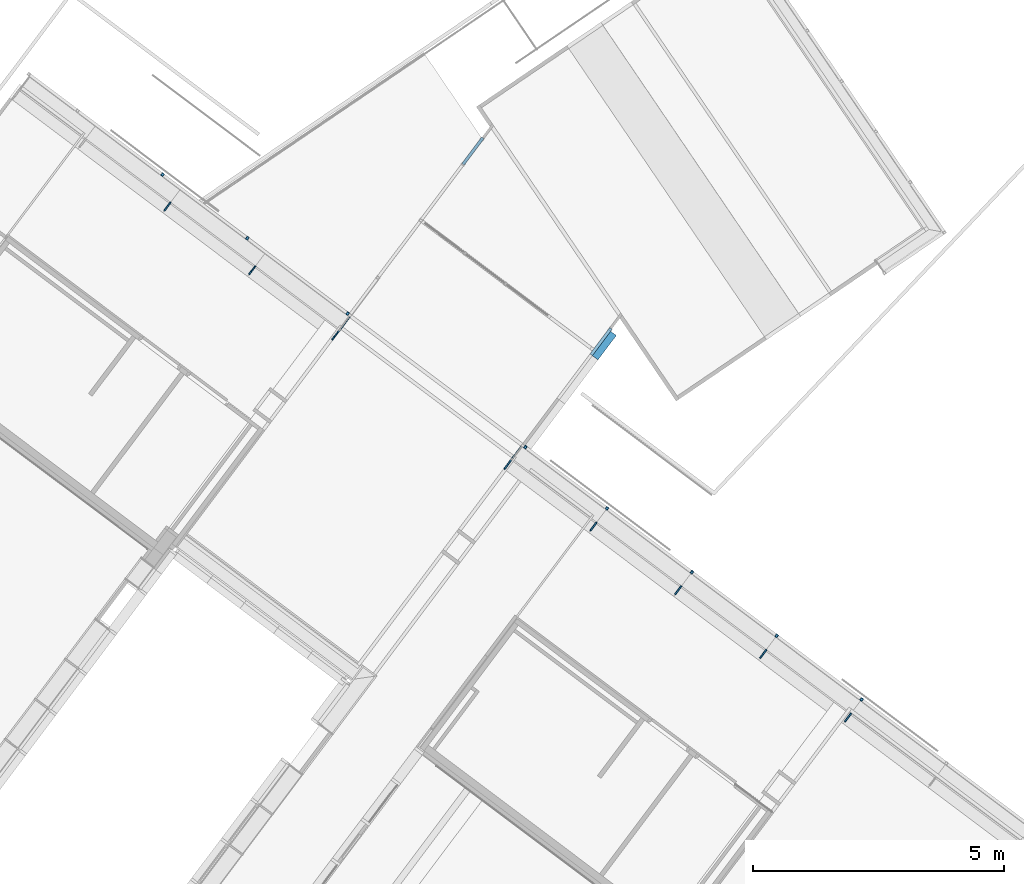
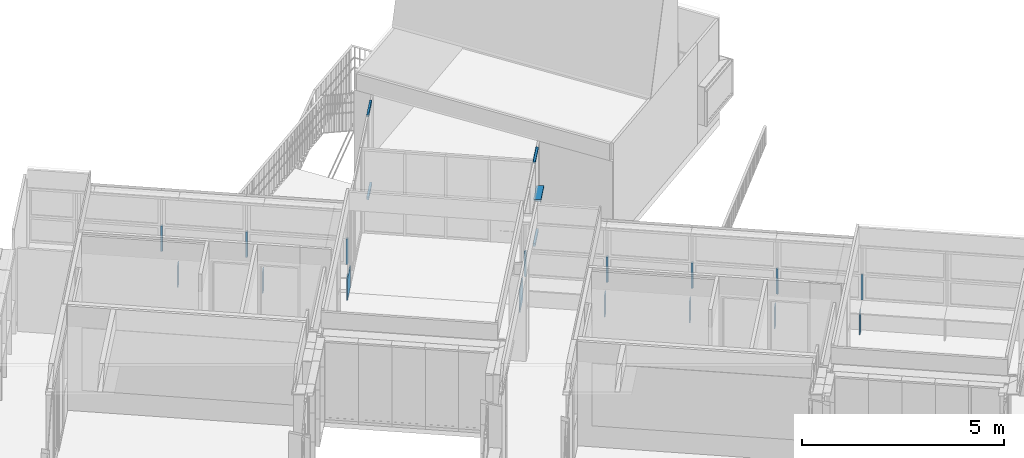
# One storey, part 102 of 243: 21 members, 6 elements without a shape of their own.
"""IFC2X3 building model written with IfcOpenShell, lengths in metres."""

import ifcopenshell
import ifcopenshell.guid

model = None  # the IFC model being written
_history = None  # IfcOwnerHistory: only IFC2X3 demands one
_inside = {}  # id of a spatial element -> (the spatial element, [elements in it])
_under = {}  # id of a project, library or spatial element -> (it, [spatial elements below it])
_declared = {}  # id of a project -> (the project, [libraries it declares])
_typed = {}  # id of a type object -> (the type object, [elements of that type])
_made_of = {}  # id of a material, layer set ... -> (it, [elements and type objects made of it])


def new_model(schema):
    """Start an empty IFC model of exactly this schema.

    Asked for "IFC4X3", IfcOpenShell would pick the latest addendum, in which some entities
    have other attributes; the version numbers below select the first issue.
    IFC2X3 requires an IfcOwnerHistory on every rooted entity: one is made here for all.
    """
    global model, _history
    if schema == "IFC4X3":
        model = ifcopenshell.file(schema_version=(4, 3, 0, 0))
    else:
        model = ifcopenshell.file(schema=schema)
    _inside.clear()
    _under.clear()
    _declared.clear()
    _typed.clear()
    _made_of.clear()
    _history = None
    if model.schema == "IFC2X3":
        org = make("IfcOrganization", Name="unknown")
        user = make(
            "IfcPersonAndOrganization",
            ThePerson=make("IfcPerson", FamilyName="unknown"),
            TheOrganization=org,
        )
        app = make(
            "IfcApplication",
            ApplicationDeveloper=org,
            Version="unknown",
            ApplicationFullName="unknown",
            ApplicationIdentifier="unknown",
        )
        _history = make(
            "IfcOwnerHistory",
            OwningUser=user,
            OwningApplication=app,
            ChangeAction="ADDED",
            CreationDate=0,
        )
    return model


def make(cls, **values):
    """One entity of the class cls with the attributes given. An attribute that is None is left unset."""
    return model.create_entity(
        cls, **{name: value for name, value in values.items() if value is not None}
    )


def entity(cls, *values):
    """Any entity or typed value of the class cls, its attributes in the order of the schema. None: left unset."""
    e = model.create_entity(cls)
    for i, value in enumerate(values):
        if value is not None:
            e[i] = value
    return e


def rooted(cls, **values):
    """An entity with a GlobalId (a new one), such as an element, a storey or a relation."""
    return make(cls, GlobalId=ifcopenshell.guid.new(), OwnerHistory=_history, **values)


def si_unit(unit_type, name, prefix=None):
    """IfcSIUnit, for example si_unit("LENGTHUNIT", "METRE", prefix="MILLI")."""
    return make("IfcSIUnit", UnitType=unit_type, Prefix=prefix, Name=name)


def converted_unit(unit_type, name, factor, base, dimensions=None, offset=None):
    """IfcConversionBasedUnit, such as the inch: factor (a typed value) times the base unit."""
    return make(
        "IfcConversionBasedUnit"
        if offset is None
        else "IfcConversionBasedUnitWithOffset",
        ConversionOffset=offset,
        Dimensions=None
        if dimensions is None
        else entity("IfcDimensionalExponents", *dimensions),
        UnitType=unit_type,
        Name=name,
        ConversionFactor=make(
            "IfcMeasureWithUnit", ValueComponent=factor, UnitComponent=base
        ),
    )


def derived_unit(unit_type, elements):
    """IfcDerivedUnit: a product of units, each with its exponent."""
    return make(
        "IfcDerivedUnit",
        Elements=[
            make("IfcDerivedUnitElement", Unit=unit, Exponent=power)
            for unit, power in elements
        ],
        UnitType=unit_type,
    )


def assignment(units):
    """IfcUnitAssignment: the units of a project."""
    return None if units is None else make("IfcUnitAssignment", Units=units)


def point(xyz):
    """IfcCartesianPoint."""
    return None if xyz is None else make("IfcCartesianPoint", Coordinates=xyz)


def direction(xyz):
    """IfcDirection."""
    return None if xyz is None else make("IfcDirection", DirectionRatios=xyz)


def frame(location, z_axis=None, x_axis=None):
    """IfcAxis2Placement3D, a coordinate frame: its origin and axes. An axis left out is left unset."""
    return make(
        "IfcAxis2Placement3D",
        Location=point(location),
        Axis=direction(z_axis),
        RefDirection=direction(x_axis),
    )


def frame_2d(location, x_axis=None):
    """IfcAxis2Placement2D, a coordinate frame in the plane: its origin and x axis."""
    return make(
        "IfcAxis2Placement2D", Location=point(location), RefDirection=direction(x_axis)
    )


def origin():
    """The frame at (0, 0, 0) with its axes left unset."""
    return frame((0.0, 0.0, 0.0))


def origin_2d_with_axis():
    """The frame at (0, 0) in the plane with the x axis (1, 0) written out."""
    return frame_2d((0.0, 0.0), x_axis=(1.0, 0.0))


def place(relative_to, where):
    """IfcLocalPlacement: puts the frame where relative to a parent placement (None: the world)."""
    return make(
        "IfcLocalPlacement", PlacementRelTo=relative_to, RelativePlacement=where
    )


def context(
    kind, dimensions, precision=None, world=None, true_north=None, identifier=None
):
    """IfcGeometricRepresentationContext, for example the 3D "Model" context."""
    return make(
        "IfcGeometricRepresentationContext",
        ContextIdentifier=identifier,
        ContextType=kind,
        CoordinateSpaceDimension=dimensions,
        Precision=precision,
        WorldCoordinateSystem=world,
        TrueNorth=true_north,
    )


def subcontext(parent, identifier, kind, view, scale=None):
    """IfcGeometricRepresentationSubContext, for example "Body" below "Model"."""
    return make(
        "IfcGeometricRepresentationSubContext",
        ContextIdentifier=identifier,
        ContextType=kind,
        ParentContext=parent,
        TargetScale=scale,
        TargetView=view,
    )


def project(units=None, contexts=None):
    """IfcProject with its units and contexts."""
    return rooted(
        "IfcProject",
        Name="project",
        RepresentationContexts=contexts,
        UnitsInContext=assignment(units),
    )


def spatial(cls, under=None, at=None, **own):
    """A site, building, storey or space (cls), placed at a placement, below another one or the project."""
    s = rooted(cls, ObjectPlacement=at, **own)
    if under is not None:
        _under.setdefault(under.id(), (under, []))[1].append(s)
    return s


def polyline(points):
    """IfcPolyline through the points."""
    return make("IfcPolyline", Points=[point(p) for p in points])


def profile(cls, at=None, kind="AREA", **sizes):
    """A parametric profile (cls). Its sizes go by their IFC names, for example OverallWidth=200.0."""
    return make(cls, ProfileType=kind, Position=at, **sizes)


def rectangle(**sizes):
    """IfcRectangleProfileDef."""
    return profile("IfcRectangleProfileDef", **sizes)


def outline(outer, holes=None, kind="AREA"):
    """IfcArbitraryClosedProfileDef: a profile drawn as a closed curve; with holes, ...WithVoids."""
    if holes is None:
        return make("IfcArbitraryClosedProfileDef", ProfileType=kind, OuterCurve=outer)
    return make(
        "IfcArbitraryProfileDefWithVoids",
        ProfileType=kind,
        OuterCurve=outer,
        InnerCurves=holes,
    )


def extrude(swept, where, along, depth):
    """IfcExtrudedAreaSolid: the profile swept, set in the frame where, extruded along a direction by depth."""
    return make(
        "IfcExtrudedAreaSolid",
        SweptArea=swept,
        Position=where,
        ExtrudedDirection=direction(along),
        Depth=depth,
    )


def shape(context_of_items, identifier, shape_type, items):
    """IfcShapeRepresentation: the items that make up one representation, for example the "Body"."""
    return make(
        "IfcShapeRepresentation",
        ContextOfItems=context_of_items,
        RepresentationIdentifier=identifier,
        RepresentationType=shape_type,
        Items=items,
    )


def source(mapping_origin, context_of_items, identifier, shape_type, items):
    """IfcRepresentationMap: a shape defined once, which mapped items show again and again."""
    return make(
        "IfcRepresentationMap",
        MappingOrigin=mapping_origin,
        MappedRepresentation=shape(context_of_items, identifier, shape_type, items),
    )


def transform(
    local_origin,
    x_axis=None,
    y_axis=None,
    z_axis=None,
    scale=None,
    scale2=None,
    scale3=None,
    uniform=True,
):
    """IfcCartesianTransformationOperator3D, or its non-uniform kind. x_axis, y_axis, z_axis: its Axis1, 2, 3."""
    if uniform:
        return make(
            "IfcCartesianTransformationOperator3D",
            Axis1=direction(x_axis),
            Axis2=direction(y_axis),
            LocalOrigin=point(local_origin),
            Scale=scale,
            Axis3=direction(z_axis),
        )
    return make(
        "IfcCartesianTransformationOperator3DnonUniform",
        Axis1=direction(x_axis),
        Axis2=direction(y_axis),
        LocalOrigin=point(local_origin),
        Scale=scale,
        Axis3=direction(z_axis),
        Scale2=scale2,
        Scale3=scale3,
    )


def mapped(mapping_source, mapping_target):
    """IfcMappedItem: shows the shape of a source again, moved by a transform."""
    return make(
        "IfcMappedItem", MappingSource=mapping_source, MappingTarget=mapping_target
    )


def material(Name=None, Category=None):
    """IfcMaterial."""
    return make("IfcMaterial", Name=Name, Category=Category)


def made_of(thing, what):
    """Note that an element or type object is made of a material, layer set ...; save() writes the relation."""
    if what is not None:
        _made_of.setdefault(what.id(), (what, []))[1].append(thing)
    return thing


def type_object(cls, material=None, **own):
    """A type object (cls), such as IfcWallType, which elements share."""
    return made_of(rooted(cls, **own), material)


def type_shapes(of_type, sources):
    """Give a type object the sources (RepresentationMaps) that its elements show as mapped items."""
    of_type.RepresentationMaps = sources


def element(
    cls,
    number,
    at=None,
    inside=None,
    cuts=None,
    type_object=None,
    material=None,
    context=None,
    identifier="Body",
    shape_type=None,
    held_by="IfcProductDefinitionShape",
    body=None,
    shapes=None,
    **own,
):
    """One element of the class cls, such as IfcWall. Its Tag is "e" and its number.

    at: its placement. inside: the storey or other place that contains it. cuts: it is an
    opening in that element (IfcRelVoidsElement). A single representation is given by context,
    identifier, shape_type and body (its items); several are given by shapes. held_by: the class
    of the entity that holds the representations. save() writes the other relations.
    """
    e = rooted(cls, Tag="e%d" % number, ObjectPlacement=at, **own)
    if body is not None:
        shapes = [shape(context, identifier, shape_type, body)]
    if shapes is not None:
        e.Representation = make(held_by, Representations=shapes)
    if inside is not None:
        _inside.setdefault(inside.id(), (inside, []))[1].append(e)
    if cuts is not None:
        rooted(
            "IfcRelVoidsElement", RelatingBuildingElement=cuts, RelatedOpeningElement=e
        )
    if type_object is not None:
        _typed.setdefault(type_object.id(), (type_object, []))[1].append(e)
    return made_of(e, material)


def aggregate(whole, parts):
    """IfcRelAggregates: a whole, such as a stair, and the parts it consists of."""
    return rooted("IfcRelAggregates", RelatingObject=whole, RelatedObjects=parts)


def save(model, path):
    """Write the relations noted so far, then the file.

    IfcRelAggregates (storeys below a building ...), IfcRelContainedInSpatialStructure (elements
    in a storey), IfcRelDefinesByType, IfcRelAssociatesMaterial and IfcRelDeclares: one each for
    every whole, place, type object, material and project.
    """
    for whole, parts in _under.values():
        aggregate(whole, parts)
    for where, things in _inside.values():
        rooted(
            "IfcRelContainedInSpatialStructure",
            RelatedElements=things,
            RelatingStructure=where,
        )
    for kind, things in _typed.values():
        rooted("IfcRelDefinesByType", RelatedObjects=things, RelatingType=kind)
    for what, things in _made_of.values():
        rooted("IfcRelAssociatesMaterial", RelatedObjects=things, RelatingMaterial=what)
    for by, libraries in _declared.values():
        rooted("IfcRelDeclares", RelatingContext=by, RelatedDefinitions=libraries)
    model.write(path)


model = new_model("IFC2X3")

# Units and contexts
model_context = context("Model", 3, precision=1e-05, world=origin(), true_north=direction((6.123031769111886e-17, 1.0)))
body_context = subcontext(model_context, "Body", "Model", "MODEL_VIEW")
ifc_project = project(units=[si_unit("LENGTHUNIT", "METRE"), si_unit("AREAUNIT", "SQUARE_METRE"), si_unit("VOLUMEUNIT", "CUBIC_METRE"), converted_unit("PLANEANGLEUNIT", "DEGREE", entity("IfcRatioMeasure", 0.017453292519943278), si_unit("PLANEANGLEUNIT", "RADIAN"), dimensions=[0, 0, 0, 0, 0, 0, 0]), si_unit("MASSUNIT", "GRAM", prefix="KILO"), derived_unit("MASSDENSITYUNIT", [(si_unit("MASSUNIT", "GRAM", prefix="KILO"), 1), (si_unit("LENGTHUNIT", "METRE"), -3)]), derived_unit("IONCONCENTRATIONUNIT", [(si_unit("MASSUNIT", "GRAM", prefix="KILO"), 1), (si_unit("LENGTHUNIT", "METRE"), -3)]), derived_unit("MOMENTOFINERTIAUNIT", [(si_unit("LENGTHUNIT", "METRE"), 4)]), si_unit("TIMEUNIT", "SECOND"), si_unit("FREQUENCYUNIT", "HERTZ"), si_unit("THERMODYNAMICTEMPERATUREUNIT", "DEGREE_CELSIUS"), derived_unit("THERMALTRANSMITTANCEUNIT", [(si_unit("MASSUNIT", "GRAM", prefix="KILO"), 1), (si_unit("THERMODYNAMICTEMPERATUREUNIT", "KELVIN"), -1), (si_unit("TIMEUNIT", "SECOND"), -3)]), derived_unit("THERMALCONDUCTANCEUNIT", [(si_unit("MASSUNIT", "GRAM", prefix="KILO"), 1), (si_unit("THERMODYNAMICTEMPERATUREUNIT", "KELVIN"), -1), (si_unit("TIMEUNIT", "SECOND"), -3), (si_unit("LENGTHUNIT", "METRE"), 1)]), derived_unit("VOLUMETRICFLOWRATEUNIT", [(si_unit("LENGTHUNIT", "METRE"), 3), (si_unit("TIMEUNIT", "SECOND"), -1)]), derived_unit("MASSFLOWRATEUNIT", [(si_unit("MASSUNIT", "GRAM", prefix="KILO"), 1), (si_unit("TIMEUNIT", "SECOND"), -1)]), derived_unit("ROTATIONALFREQUENCYUNIT", [(si_unit("TIMEUNIT", "SECOND"), -1)]), si_unit("ELECTRICCURRENTUNIT", "AMPERE"), si_unit("ELECTRICVOLTAGEUNIT", "VOLT"), si_unit("POWERUNIT", "WATT"), si_unit("FORCEUNIT", "NEWTON", prefix="KILO"), si_unit("ILLUMINANCEUNIT", "LUX"), si_unit("LUMINOUSFLUXUNIT", "LUMEN"), si_unit("LUMINOUSINTENSITYUNIT", "CANDELA"), derived_unit("USERDEFINED", [(si_unit("MASSUNIT", "GRAM", prefix="KILO"), -1), (si_unit("LENGTHUNIT", "METRE"), -2), (si_unit("TIMEUNIT", "SECOND"), 3), (si_unit("LUMINOUSFLUXUNIT", "LUMEN"), 1)]), derived_unit("USERDEFINED", [(si_unit("MASSUNIT", "GRAM", prefix="KILO"), 1), (si_unit("TIMEUNIT", "SECOND"), -3), (si_unit("LENGTHUNIT", "METRE"), 3), (si_unit("ELECTRICCURRENTUNIT", "AMPERE"), -2)]), derived_unit("SOUNDPOWERUNIT", [(si_unit("MASSUNIT", "GRAM", prefix="KILO"), 1), (si_unit("TIMEUNIT", "SECOND"), -3), (si_unit("LENGTHUNIT", "METRE"), 2)]), derived_unit("SOUNDPRESSUREUNIT", [(si_unit("MASSUNIT", "GRAM", prefix="KILO"), 1), (si_unit("LENGTHUNIT", "METRE"), -1), (si_unit("TIMEUNIT", "SECOND"), -2)]), derived_unit("LINEARVELOCITYUNIT", [(si_unit("LENGTHUNIT", "METRE"), 1), (si_unit("TIMEUNIT", "SECOND"), -1)]), si_unit("PRESSUREUNIT", "PASCAL"), derived_unit("USERDEFINED", [(si_unit("MASSUNIT", "GRAM", prefix="KILO"), 1), (si_unit("LENGTHUNIT", "METRE"), -2), (si_unit("TIMEUNIT", "SECOND"), -2)]), derived_unit("LINEARFORCEUNIT", [(si_unit("MASSUNIT", "GRAM", prefix="KILO"), 1), (si_unit("TIMEUNIT", "SECOND"), -2)]), derived_unit("PLANARFORCEUNIT", [(si_unit("MASSUNIT", "GRAM", prefix="KILO"), 1), (si_unit("LENGTHUNIT", "METRE"), -1), (si_unit("TIMEUNIT", "SECOND"), -2)]), derived_unit("SPECIFICHEATCAPACITYUNIT", [(si_unit("THERMODYNAMICTEMPERATUREUNIT", "KELVIN"), -1), (si_unit("LENGTHUNIT", "METRE"), 2), (si_unit("TIMEUNIT", "SECOND"), -2)]), derived_unit("HEATINGVALUEUNIT", [(si_unit("LENGTHUNIT", "METRE"), 2), (si_unit("TIMEUNIT", "SECOND"), -2)]), derived_unit("VAPORPERMEABILITYUNIT", [(si_unit("LENGTHUNIT", "METRE"), -1), (si_unit("TIMEUNIT", "SECOND"), 1)]), derived_unit("DYNAMICVISCOSITYUNIT", [(si_unit("MASSUNIT", "GRAM", prefix="KILO"), 1), (si_unit("TIMEUNIT", "SECOND"), -1), (si_unit("LENGTHUNIT", "METRE"), -1)]), derived_unit("THERMALEXPANSIONCOEFFICIENTUNIT", [(si_unit("THERMODYNAMICTEMPERATUREUNIT", "KELVIN"), -1)]), derived_unit("MODULUSOFELASTICITYUNIT", [(si_unit("MASSUNIT", "GRAM", prefix="KILO"), 1), (si_unit("LENGTHUNIT", "METRE"), -1), (si_unit("TIMEUNIT", "SECOND"), -2)]), derived_unit("ISOTHERMALMOISTURECAPACITYUNIT", [(si_unit("LENGTHUNIT", "METRE"), 3), (si_unit("MASSUNIT", "GRAM", prefix="KILO"), -1)]), derived_unit("MOISTUREDIFFUSIVITYUNIT", [(si_unit("TIMEUNIT", "SECOND"), -1), (si_unit("LENGTHUNIT", "METRE"), 2)])], contexts=[model_context])

# Site, building, storey
site_placement = place(None, frame((0.0, 0.0, 235.0), z_axis=(0.0, 0.0, 1.0), x_axis=(-0.7996477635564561, 0.6004693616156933, 0.0)))
site = spatial("IfcSite", under=ifc_project, at=site_placement, Name="Default", CompositionType="ELEMENT")
building_placement = place(site_placement, origin())
building = spatial("IfcBuilding", under=site, at=building_placement, CompositionType="ELEMENT")
storey_placement = place(building_placement, origin())
storey = spatial("IfcBuildingStorey", under=building, at=storey_placement, Name="P0- Escola", CompositionType="ELEMENT", Elevation=0.0)

# Curtain wall, members
curtain_wall_type_1 = type_object("IfcCurtainWallType", Name="Muro cortina:MC- EXT- MC6", PredefinedType="NOTDEFINED")
curtain_wall_1_placement = place(storey_placement, origin())
curtain_wall_1 = element("IfcCurtainWall", 1, at=curtain_wall_1_placement, inside=storey, type_object=curtain_wall_type_1, Name="Muro cortina:MC- EXT- MC6", ObjectType="Muro cortina:MC- EXT- MC6")
ifc_material_1 = material(Name="_Alumini- T1- Perfil")
member_type_1 = type_object("IfcMemberType", Name="Montante rectangular:MC- Alu- 50x60 cm- Fa pista- Centre", PredefinedType="MULLION", material=ifc_material_1)
shared_shape_1 = source(origin(), body_context, "Body", "SweptSolid", [
    extrude(rectangle(XDim=0.06000000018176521, YDim=0.05, at=frame_2d((3.469446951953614e-18, 0.0), x_axis=(1.0, 0.0))), frame((-0.025, -0.030000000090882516, -0.77), z_axis=(0.0, 0.0, 1.0), x_axis=(0.0, -1.0, 0.0)), (0.0, 0.0, 1.0), 0.77),
])
type_shapes(member_type_1, [shared_shape_1])
member_1_placement = place(curtain_wall_1_placement, frame((62.05048814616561, -42.34019175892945, 0.685), z_axis=(0.0, 0.0, -1.0), x_axis=(1.0, 0.0, 0.0)))
member_1 = element("IfcMember", 2, at=member_1_placement, type_object=member_type_1, material=ifc_material_1, Name="Montante rectangular:MC- Alu- 50x60 cm- Fa pista- Centre", ObjectType="Montante rectangular:MC- Alu- 50x60 cm- Fa pista- Centre", context=body_context, shape_type="MappedRepresentation", body=[
    mapped(shared_shape_1, transform((0.0, 0.0, 0.0), scale=1.0)),
])
member_type_2 = type_object("IfcMemberType", Name="Montante rectangular:MC- Alu- 50x60 cm- Fa pista- Centre", PredefinedType="MULLION", material=ifc_material_1)
shared_shape_2 = source(origin(), body_context, "Body", "SweptSolid", [
    extrude(rectangle(XDim=0.0600000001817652, YDim=0.05, at=frame_2d((8.673617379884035e-18, 0.0), x_axis=(1.0, 0.0))), frame((0.0, -0.030000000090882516, -0.77), z_axis=(0.0, 0.0, 1.0), x_axis=(0.0, -1.0, 0.0)), (0.0, 0.0, 1.0), 0.77),
])
type_shapes(member_type_2, [shared_shape_2])
member_2_placement = place(curtain_wall_1_placement, frame((59.986143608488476, -42.34019175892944, 0.685), z_axis=(0.0, 0.0, -1.0), x_axis=(1.0, 0.0, 0.0)))
member_2 = element("IfcMember", 3, at=member_2_placement, type_object=member_type_2, material=ifc_material_1, Name="Montante rectangular:MC- Alu- 50x60 cm- Fa pista- Centre", ObjectType="Montante rectangular:MC- Alu- 50x60 cm- Fa pista- Centre", context=body_context, shape_type="MappedRepresentation", body=[
    mapped(shared_shape_2, transform((0.0, 0.0, 0.0), scale=1.0)),
])
member_3_placement = place(curtain_wall_1_placement, frame((57.86914360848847, -42.34019175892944, 0.685), z_axis=(0.0, 0.0, -1.0), x_axis=(1.0, 0.0, 0.0)))
member_3 = element("IfcMember", 4, at=member_3_placement, type_object=member_type_2, material=ifc_material_1, Name="Montante rectangular:MC- Alu- 50x60 cm- Fa pista- Centre", ObjectType="Montante rectangular:MC- Alu- 50x60 cm- Fa pista- Centre", context=body_context, shape_type="MappedRepresentation", body=[
    mapped(shared_shape_2, transform((0.0, 0.0, 0.0), scale=1.0)),
])
member_4_placement = place(curtain_wall_1_placement, frame((55.75214360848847, -42.340191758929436, 0.685), z_axis=(0.0, 0.0, -1.0), x_axis=(1.0, 0.0, 0.0)))
member_4 = element("IfcMember", 5, at=member_4_placement, type_object=member_type_2, material=ifc_material_1, Name="Montante rectangular:MC- Alu- 50x60 cm- Fa pista- Centre", ObjectType="Montante rectangular:MC- Alu- 50x60 cm- Fa pista- Centre", context=body_context, shape_type="MappedRepresentation", body=[
    mapped(shared_shape_2, transform((0.0, 0.0, 0.0), scale=1.0)),
])
member_5_placement = place(curtain_wall_1_placement, frame((53.63514360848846, -42.34019175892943, 0.685), z_axis=(0.0, 0.0, -1.0), x_axis=(1.0, 0.0, 0.0)))
member_5 = element("IfcMember", 6, at=member_5_placement, type_object=member_type_2, material=ifc_material_1, Name="Montante rectangular:MC- Alu- 50x60 cm- Fa pista- Centre", ObjectType="Montante rectangular:MC- Alu- 50x60 cm- Fa pista- Centre", context=body_context, shape_type="MappedRepresentation", body=[
    mapped(shared_shape_2, transform((0.0, 0.0, 0.0), scale=1.0)),
])
aggregate(curtain_wall_1, [member_1, member_2, member_3, member_4, member_5])

curtain_wall_2_placement = place(storey_placement, origin())
curtain_wall_2 = element("IfcCurtainWall", 7, at=curtain_wall_2_placement, inside=storey, type_object=curtain_wall_type_1, Name="Muro cortina:MC- EXT- MC6", ObjectType="Muro cortina:MC- EXT- MC6")
member_6_placement = place(curtain_wall_2_placement, frame((71.08155280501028, -42.340191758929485, 0.685), z_axis=(0.0, 0.0, -1.0), x_axis=(1.0, 0.0, 0.0)))
member_6 = element("IfcMember", 8, at=member_6_placement, type_object=member_type_2, material=ifc_material_1, Name="Montante rectangular:MC- Alu- 50x60 cm- Fa pista- Centre", ObjectType="Montante rectangular:MC- Alu- 50x60 cm- Fa pista- Centre", context=body_context, shape_type="MappedRepresentation", body=[
    mapped(shared_shape_2, transform((0.0, 0.0, 0.0), scale=1.0)),
])
member_7_placement = place(curtain_wall_2_placement, frame((68.96455280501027, -42.34019175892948, 0.685), z_axis=(0.0, 0.0, -1.0), x_axis=(1.0, 0.0, 0.0)))
member_7 = element("IfcMember", 9, at=member_7_placement, type_object=member_type_2, material=ifc_material_1, Name="Montante rectangular:MC- Alu- 50x60 cm- Fa pista- Centre", ObjectType="Montante rectangular:MC- Alu- 50x60 cm- Fa pista- Centre", context=body_context, shape_type="MappedRepresentation", body=[
    mapped(shared_shape_2, transform((0.0, 0.0, 0.0), scale=1.0)),
])
member_type_3 = type_object("IfcMemberType", Name="Montante rectangular:MC- Alu- 50x60 cm- Fa pista- Centre", PredefinedType="MULLION", material=ifc_material_1)
shared_shape_3 = source(origin(), body_context, "Body", "SweptSolid", [
    extrude(rectangle(XDim=0.0600000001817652, YDim=0.05, at=frame_2d((-8.673617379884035e-18, 0.0), x_axis=(1.0, 0.0))), frame((-0.025, -0.030000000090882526, -0.7699999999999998), z_axis=(0.0, 0.0, 1.0), x_axis=(0.0, -1.0, 0.0)), (0.0, 0.0, 1.0), 0.7699999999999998),
])
type_shapes(member_type_3, [shared_shape_3])
member_8_placement = place(curtain_wall_2_placement, frame((66.43814360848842, -42.34019175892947, 1.455), z_axis=(0.0, 0.0, 1.0), x_axis=(-1.0, 0.0, 0.0)))
member_8 = element("IfcMember", 10, at=member_8_placement, type_object=member_type_3, material=ifc_material_1, Name="Montante rectangular:MC- Alu- 50x60 cm- Fa pista- Centre", ObjectType="Montante rectangular:MC- Alu- 50x60 cm- Fa pista- Centre", context=body_context, shape_type="MappedRepresentation", body=[
    mapped(shared_shape_3, transform((0.0, 0.0, 0.0), scale=1.0)),
])
aggregate(curtain_wall_2, [member_6, member_7, member_8])

curtain_wall_type_2 = type_object("IfcCurtainWallType", PredefinedType="NOTDEFINED")
curtain_wall_3_placement = place(storey_placement, origin())
curtain_wall_3 = element("IfcCurtainWall", 11, at=curtain_wall_3_placement, inside=storey, type_object=curtain_wall_type_2)
ifc_material_2 = material(Name="_Fusta massisa- T1")
member_type_4 = type_object("IfcMemberType", Name="Montante rectangular:MC- Fusta- 57,5x3 cm- Fa Pista- Remat extrem", PredefinedType="MULLION", material=ifc_material_2)
shared_shape_4 = source(origin(), body_context, "Body", "SweptSolid", [
    extrude(rectangle(XDim=0.5749999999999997, YDim=0.03000000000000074, at=frame_2d((5.551115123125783e-17, 4.649058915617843e-16), x_axis=(1.0, 0.0))), frame((-0.015000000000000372, -0.03750000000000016, -0.6550000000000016), z_axis=(0.0, 0.0, 1.0), x_axis=(0.0, -1.0, 0.0)), (0.0, 0.0, 1.0), 0.6550000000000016),
])
type_shapes(member_type_4, [shared_shape_4])
member_9_placement = place(curtain_wall_3_placement, frame((62.11048814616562, -42.03019175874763, 0.0), z_axis=(0.0, 0.0, -1.0), x_axis=(1.0, 0.0, 0.0)))
member_9 = element("IfcMember", 12, at=member_9_placement, type_object=member_type_4, material=ifc_material_2, Name="Montante rectangular:MC- Fusta- 57,5x3 cm- Fa Pista- Remat extrem", ObjectType="Montante rectangular:MC- Fusta- 57,5x3 cm- Fa Pista- Remat extrem", context=body_context, shape_type="MappedRepresentation", body=[
    mapped(shared_shape_4, transform((0.0, 0.0, 0.0), scale=1.0)),
])
member_type_5 = type_object("IfcMemberType", Name="Montante rectangular:MC- Fusta- 34x3 cm- Fa Pista- Pota taula", PredefinedType="MULLION", material=ifc_material_2)
shared_shape_5 = source(origin(), body_context, "Body", "SweptSolid", [
    extrude(rectangle(XDim=0.21000000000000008, YDim=0.03000000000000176, at=frame_2d((1.3877787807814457e-17, 1.717376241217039e-16), x_axis=(1.0, 0.0))), frame((0.0, -0.1700000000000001, -0.655000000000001), z_axis=(0.0, 0.0, 1.0), x_axis=(0.0, -1.0, 0.0)), (0.0, 0.0, 1.0), 0.655000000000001),
])
type_shapes(member_type_5, [shared_shape_5])
member_10_placement = place(curtain_wall_3_placement, frame((55.75214360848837, -42.030191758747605, 0.0), z_axis=(0.0, 0.0, -1.0), x_axis=(1.0, 0.0, 0.0)))
member_10 = element("IfcMember", 13, at=member_10_placement, type_object=member_type_5, material=ifc_material_2, Name="Montante rectangular:MC- Fusta- 34x3 cm- Fa Pista- Pota taula", ObjectType="Montante rectangular:MC- Fusta- 34x3 cm- Fa Pista- Pota taula", context=body_context, shape_type="MappedRepresentation", body=[
    mapped(shared_shape_5, transform((0.0, 0.0, 0.0), scale=1.0)),
])
member_11_placement = place(curtain_wall_3_placement, frame((57.86914360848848, -42.03019175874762, 0.0), z_axis=(0.0, 0.0, -1.0), x_axis=(1.0, 0.0, 0.0)))
member_11 = element("IfcMember", 14, at=member_11_placement, type_object=member_type_5, material=ifc_material_2, Name="Montante rectangular:MC- Fusta- 34x3 cm- Fa Pista- Pota taula", ObjectType="Montante rectangular:MC- Fusta- 34x3 cm- Fa Pista- Pota taula", context=body_context, shape_type="MappedRepresentation", body=[
    mapped(shared_shape_5, transform((0.0, 0.0, 0.0), scale=1.0)),
])
member_12_placement = place(curtain_wall_3_placement, frame((59.98614360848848, -42.03019175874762, 0.0), z_axis=(0.0, 0.0, -1.0), x_axis=(1.0, 0.0, 0.0)))
member_12 = element("IfcMember", 15, at=member_12_placement, type_object=member_type_5, material=ifc_material_2, Name="Montante rectangular:MC- Fusta- 34x3 cm- Fa Pista- Pota taula", ObjectType="Montante rectangular:MC- Fusta- 34x3 cm- Fa Pista- Pota taula", context=body_context, shape_type="MappedRepresentation", body=[
    mapped(shared_shape_5, transform((0.0, 0.0, 0.0), scale=1.0)),
])
member_13_placement = place(curtain_wall_3_placement, frame((53.63514360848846, -42.0301917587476, 0.0), z_axis=(0.0, 0.0, -1.0), x_axis=(1.0, 0.0, 0.0)))
member_13 = element("IfcMember", 16, at=member_13_placement, type_object=member_type_5, material=ifc_material_2, Name="Montante rectangular:MC- Fusta- 34x3 cm- Fa Pista- Pota taula", ObjectType="Montante rectangular:MC- Fusta- 34x3 cm- Fa Pista- Pota taula", context=body_context, shape_type="MappedRepresentation", body=[
    mapped(shared_shape_5, transform((0.0, 0.0, 0.0), scale=1.0)),
])
aggregate(curtain_wall_3, [member_9, member_10, member_11, member_12, member_13])

curtain_wall_type_3 = type_object("IfcCurtainWallType", PredefinedType="NOTDEFINED")
curtain_wall_4_placement = place(storey_placement, origin())
curtain_wall_4 = element("IfcCurtainWall", 17, at=curtain_wall_4_placement, inside=storey, type_object=curtain_wall_type_3)
member_type_6 = type_object("IfcMemberType", Name="Montante rectangular:MC- Alu- 140x52,5 cm- Fa pista- Superior", PredefinedType="MULLION", material=ifc_material_1)
shared_shape_6 = source(origin(), body_context, "Body", "SweptSolid", [
    extrude(outline(polyline([(-0.03933333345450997, -0.04916666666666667), (0.02066666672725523, -0.04916666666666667), (0.020666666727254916, 0.048333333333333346), (0.018666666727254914, 0.04833333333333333), (0.018666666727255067, 0.00083333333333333), (-0.03933333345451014, 0.00083333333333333), (-0.03933333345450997, -0.04916666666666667)])), frame((-0.048333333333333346, -0.03933333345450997, -0.6576513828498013), z_axis=(0.0, 0.0, 1.0), x_axis=(0.0, -1.0, 0.0)), (0.0, 0.0, 1.0), 0.6576513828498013),
])
type_shapes(member_type_6, [shared_shape_6])
member_14_placement = place(curtain_wall_4_placement, frame((62.050488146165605, -45.23084133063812, 2.6000000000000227), z_axis=(0.0, -1.0, 0.0), x_axis=(0.0, 0.0, 1.0)))
member_14 = element("IfcMember", 18, at=member_14_placement, type_object=member_type_6, material=ifc_material_1, Name="Montante rectangular:MC- Alu- 140x52,5 cm- Fa pista- Superior", ObjectType="Montante rectangular:MC- Alu- 140x52,5 cm- Fa pista- Superior", context=body_context, shape_type="MappedRepresentation", body=[
    mapped(shared_shape_6, transform((0.0, 0.0, 0.0), scale=1.0)),
])
member_type_7 = type_object("IfcMemberType", Name="Montante rectangular:MC- Alu- 52x80 cm- Fa pista- inferior", PredefinedType="MULLION", material=ifc_material_1)
shared_shape_7 = source(origin(), body_context, "Body", "SweptSolid", [
    extrude(rectangle(XDim=0.06000000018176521, YDim=0.085, at=origin_2d_with_axis()), frame((-0.0425, -0.030000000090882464, -0.6576513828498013), z_axis=(0.0, 0.0, 1.0), x_axis=(0.0, -1.0, 0.0)), (0.0, 0.0, 1.0), 0.6576513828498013),
])
type_shapes(member_type_7, [shared_shape_7])
member_15_placement = place(curtain_wall_4_placement, frame((62.050488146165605, -44.57318994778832, 0.0), z_axis=(0.0, 1.0, 0.0), x_axis=(0.0, 0.0, -1.0)))
member_15 = element("IfcMember", 19, at=member_15_placement, type_object=member_type_7, material=ifc_material_1, Name="Montante rectangular:MC- Alu- 52x80 cm- Fa pista- inferior", ObjectType="Montante rectangular:MC- Alu- 52x80 cm- Fa pista- inferior", context=body_context, shape_type="MappedRepresentation", body=[
    mapped(shared_shape_7, transform((0.0, 0.0, 0.0), scale=1.0)),
])
member_type_8 = type_object("IfcMemberType", Name="Montante rectangular:MC- Alu- 140x52,5 cm- Fa patis- Centre", PredefinedType="MULLION", material=ifc_material_1)
shared_shape_8 = source(origin(), body_context, "Body", "SweptSolid", [
    extrude(outline(polyline([(-0.11699999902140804, -0.026250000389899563), (0.021999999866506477, -0.026250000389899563), (0.021999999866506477, -0.01500000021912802), (0.07299999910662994, -0.01500000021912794), (0.07299999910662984, 0.015000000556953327), (0.02200000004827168, 0.015000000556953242), (0.02200000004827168, 0.026250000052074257), (-0.11699999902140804, 0.026250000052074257), (-0.11699999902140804, -0.026250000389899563)])), frame((0.0, 0.022999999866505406, -0.607651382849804), z_axis=(0.0, 0.0, 1.0), x_axis=(0.0, -1.0, 0.0)), (0.0, 0.0, 1.0), 0.6076513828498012),
])
type_shapes(member_type_8, [shared_shape_8])
member_16_placement = place(curtain_wall_4_placement, frame((62.050488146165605, -45.180841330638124, 1.4000000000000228), z_axis=(0.0, -1.0, 0.0), x_axis=(0.0, 0.0, 1.0)))
member_16 = element("IfcMember", 20, at=member_16_placement, type_object=member_type_8, material=ifc_material_1, Name="Montante rectangular:MC- Alu- 140x52,5 cm- Fa patis- Centre", ObjectType="Montante rectangular:MC- Alu- 140x52,5 cm- Fa patis- Centre", context=body_context, shape_type="MappedRepresentation", body=[
    mapped(shared_shape_8, transform((0.0, 0.0, 0.0), scale=1.0)),
])
aggregate(curtain_wall_4, [member_14, member_15, member_16])

curtain_wall_5_placement = place(storey_placement, origin())
curtain_wall_5 = element("IfcCurtainWall", 21, at=curtain_wall_5_placement, inside=storey, type_object=curtain_wall_type_3)
member_type_9 = type_object("IfcMemberType", Name="Montante rectangular:MC- Alu- 140x52,5 cm- Fa pista- Superior", PredefinedType="MULLION", material=ifc_material_1)
shared_shape_9 = source(origin(), body_context, "Body", "SweptSolid", [
    extrude(outline(polyline([(-0.02066666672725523, -0.04916666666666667), (0.03933333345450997, -0.04916666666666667), (0.039333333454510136, 0.00083333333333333), (-0.018666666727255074, 0.00083333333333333), (-0.01866666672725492, 0.04833333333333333), (-0.020666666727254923, 0.048333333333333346), (-0.02066666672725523, -0.04916666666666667)])), frame((-0.048333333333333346, 0.03933333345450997, -0.6549451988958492), z_axis=(0.0, 0.0, 1.0), x_axis=(0.0, -1.0, 0.0)), (0.0, 0.0, 1.0), 0.6549451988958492),
])
type_shapes(member_type_9, [shared_shape_9])
member_17_placement = place(curtain_wall_5_placement, frame((66.43814360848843, -46.73413514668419, 2.6000000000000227), z_axis=(0.0, -1.0, 0.0), x_axis=(0.0, 0.0, 1.0)))
member_17 = element("IfcMember", 22, at=member_17_placement, type_object=member_type_9, material=ifc_material_1, Name="Montante rectangular:MC- Alu- 140x52,5 cm- Fa pista- Superior", ObjectType="Montante rectangular:MC- Alu- 140x52,5 cm- Fa pista- Superior", context=body_context, shape_type="MappedRepresentation", body=[
    mapped(shared_shape_9, transform((0.0, 0.0, 0.0), scale=1.0)),
])
member_type_10 = type_object("IfcMemberType", Name="Montante rectangular:MC- Alu- 52x80 cm- Fa pista- inferior", PredefinedType="MULLION", material=ifc_material_1)
shared_shape_10 = source(origin(), body_context, "Body", "SweptSolid", [
    extrude(rectangle(XDim=0.06000000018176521, YDim=0.08500000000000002, at=frame_2d((3.469446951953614e-18, -6.938893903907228e-18), x_axis=(1.0, 0.0))), frame((-0.0425, 0.030000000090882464, -0.6549451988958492), z_axis=(0.0, 0.0, 1.0), x_axis=(0.0, -1.0, 0.0)), (0.0, 0.0, 1.0), 0.6549451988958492),
])
type_shapes(member_type_10, [shared_shape_10])
member_18_placement = place(curtain_wall_5_placement, frame((66.43814360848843, -46.07918994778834, 0.0), z_axis=(0.0, 1.0, 0.0), x_axis=(0.0, 0.0, -1.0)))
member_18 = element("IfcMember", 23, at=member_18_placement, type_object=member_type_10, material=ifc_material_1, Name="Montante rectangular:MC- Alu- 52x80 cm- Fa pista- inferior", ObjectType="Montante rectangular:MC- Alu- 52x80 cm- Fa pista- inferior", context=body_context, shape_type="MappedRepresentation", body=[
    mapped(shared_shape_10, transform((0.0, 0.0, 0.0), scale=1.0)),
])
aggregate(curtain_wall_5, [member_17, member_18])

curtain_wall_6_placement = place(storey_placement, origin())
curtain_wall_6 = element("IfcCurtainWall", 24, at=curtain_wall_6_placement, inside=storey, type_object=curtain_wall_type_2)
member_type_11 = type_object("IfcMemberType", Name="Montante rectangular:MC- Fusta- 57,5x3 cm- Fa Pista- Remat extrem", PredefinedType="MULLION", material=ifc_material_2)
shared_shape_11 = source(origin(), body_context, "Body", "SweptSolid", [
    extrude(rectangle(XDim=0.575, YDim=0.030000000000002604, at=frame_2d((0.0, -4.631711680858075e-16), x_axis=(1.0, 0.0))), frame((-0.015000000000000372, 0.03750000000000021, -0.6550000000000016), z_axis=(0.0, 0.0, 1.0), x_axis=(0.0, -1.0, 0.0)), (0.0, 0.0, 1.0), 0.6550000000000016),
])
type_shapes(member_type_11, [shared_shape_11])
member_19_placement = place(curtain_wall_6_placement, frame((66.3781436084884, -42.03019175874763, 0.0), z_axis=(0.0, 0.0, -1.0), x_axis=(-1.0, 0.0, 0.0)))
member_19 = element("IfcMember", 25, at=member_19_placement, type_object=member_type_11, material=ifc_material_2, Name="Montante rectangular:MC- Fusta- 57,5x3 cm- Fa Pista- Remat extrem", ObjectType="Montante rectangular:MC- Fusta- 57,5x3 cm- Fa Pista- Remat extrem", context=body_context, shape_type="MappedRepresentation", body=[
    mapped(shared_shape_11, transform((0.0, 0.0, 0.0), scale=1.0)),
])
member_type_12 = type_object("IfcMemberType", Name="Montante rectangular:MC- Fusta- 34x3 cm- Fa Pista- Pota taula", PredefinedType="MULLION", material=ifc_material_2)
shared_shape_12 = source(origin(), body_context, "Body", "SweptSolid", [
    extrude(rectangle(XDim=0.21000000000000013, YDim=0.03000000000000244, at=frame_2d((0.0, -1.682681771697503e-16), x_axis=(1.0, 0.0))), frame((0.0, 0.1700000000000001, -0.655000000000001), z_axis=(0.0, 0.0, 1.0), x_axis=(0.0, -1.0, 0.0)), (0.0, 0.0, 1.0), 0.655000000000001),
])
type_shapes(member_type_12, [shared_shape_12])
member_20_placement = place(curtain_wall_6_placement, frame((70.61948814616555, -42.03019175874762, 0.0), z_axis=(0.0, 0.0, -1.0), x_axis=(-1.0, 0.0, 0.0)))
member_20 = element("IfcMember", 26, at=member_20_placement, type_object=member_type_12, material=ifc_material_2, Name="Montante rectangular:MC- Fusta- 34x3 cm- Fa Pista- Pota taula", ObjectType="Montante rectangular:MC- Fusta- 34x3 cm- Fa Pista- Pota taula", context=body_context, shape_type="MappedRepresentation", body=[
    mapped(shared_shape_12, transform((0.0, 0.0, 0.0), scale=1.0)),
])
member_21_placement = place(curtain_wall_6_placement, frame((68.50248814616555, -42.03019175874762, 0.0), z_axis=(0.0, 0.0, -1.0), x_axis=(-1.0, 0.0, 0.0)))
member_21 = element("IfcMember", 27, at=member_21_placement, type_object=member_type_12, material=ifc_material_2, Name="Montante rectangular:MC- Fusta- 34x3 cm- Fa Pista- Pota taula", ObjectType="Montante rectangular:MC- Fusta- 34x3 cm- Fa Pista- Pota taula", context=body_context, shape_type="MappedRepresentation", body=[
    mapped(shared_shape_12, transform((0.0, 0.0, 0.0), scale=1.0)),
])
aggregate(curtain_wall_6, [member_19, member_20, member_21])

save(model, "model.ifc")
